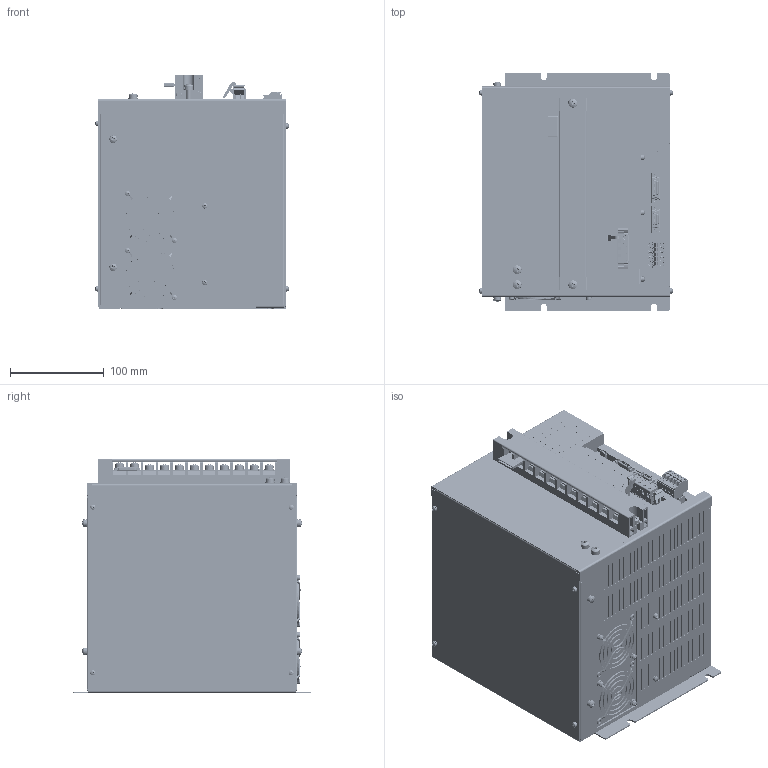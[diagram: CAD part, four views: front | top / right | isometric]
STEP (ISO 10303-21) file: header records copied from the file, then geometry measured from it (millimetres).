
FILE_DESCRIPTION (( 'STEP AP203' ), '1' );
FILE_NAME ('NCR-HC3_702#SE-97690.STEP', '2021-07-07T06:46:23', ( '' ), ( '' ), 'SwSTEP 2.0', 'SolidWorks 2018', '' );
FILE_SCHEMA (( 'CONFIG_CONTROL_DESIGN' ));
Products named in the file (1): NCR-HC3_702#SE-97690
Bounding box: 207.11 x 255 x 251 mm (x, y, z)
Volume: 10106655.5 mm3; surface area: 422532.5 mm2
Topology: 5 solids, 42 shells, 12399 faces, 33168 edges, 21557 vertices
Faces by surface type: plane 7558, cylinder 2210, bspline 1715, cone 604, torus 232, sphere 80
Entity records: 438658 total; most frequent: CARTESIAN_POINT 136001, ORIENTED_EDGE 66144, DIRECTION 57246, EDGE_CURVE 33072, VECTOR 21998, LINE 21998, VERTEX_POINT 21557, AXIS2_PLACEMENT_3D 17624
